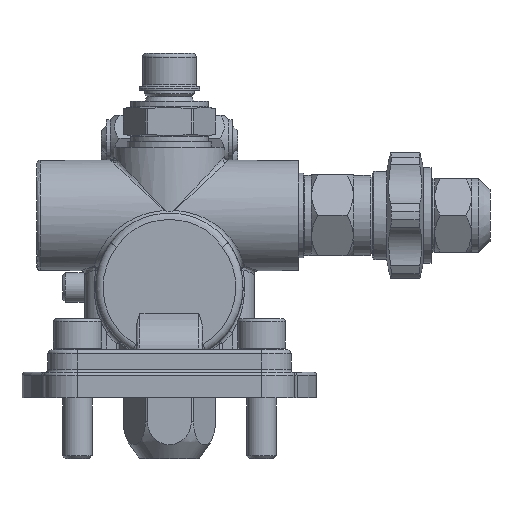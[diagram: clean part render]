
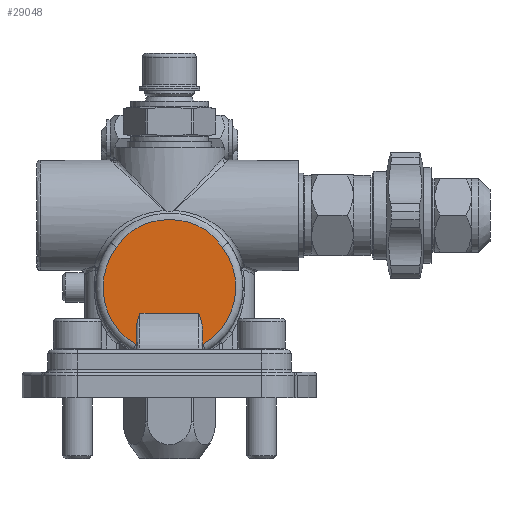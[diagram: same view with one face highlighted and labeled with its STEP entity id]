
A CAD part, left-side view. The second image highlights one B-rep face of the part: STEP entity #29048.
In plain terms, the highlighted planar face has unit normal (-1, 0, 0).
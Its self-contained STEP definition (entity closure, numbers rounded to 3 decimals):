
#23959=CARTESIAN_POINT('',(-25.5,-14.312,39.917));
#23960=VERTEX_POINT('',#23959);
#23968=CARTESIAN_POINT('',(-25.5,-9.,13.412));
#23969=VERTEX_POINT('',#23968);
#23970=CARTESIAN_POINT('',(-25.5,0.,29.));
#23971=DIRECTION('',(1.0,0.0,0.0));
#23972=DIRECTION('',(0.0,0.0,1.0));
#23973=AXIS2_PLACEMENT_3D('',#23970,#23971,#23972);
#23974=CIRCLE('',#23973,18.0);
#23975=EDGE_CURVE('',#23960,#23969,#23974,.T.);
#24054=CARTESIAN_POINT('',(-25.5,14.312,39.917));
#24055=VERTEX_POINT('',#24054);
#24063=CARTESIAN_POINT('',(-25.5,14.312,39.917));
#24064=CARTESIAN_POINT('',(-25.5,13.827,40.552));
#24065=CARTESIAN_POINT('',(-25.5,12.849,41.819));
#24066=CARTESIAN_POINT('',(-25.5,10.602,44.118));
#24067=CARTESIAN_POINT('',(-25.5,7.143,46.227));
#24068=CARTESIAN_POINT('',(-25.5,0.841,47.796));
#24069=CARTESIAN_POINT('',(-25.5,-5.727,47.051));
#24070=CARTESIAN_POINT('',(-25.5,-10.598,44.13));
#24071=CARTESIAN_POINT('',(-25.5,-12.839,41.827));
#24072=CARTESIAN_POINT('',(-25.5,-13.827,40.552));
#24073=CARTESIAN_POINT('',(-25.5,-14.312,39.917));
#24074=B_SPLINE_CURVE_WITH_KNOTS('',3,(#24063,#24064,#24065,#24066,#24067,#24068,#24069,#24070,#24071,#24072,#24073),.UNSPECIFIED.,.F.,.U.,(4,1,1,1,1,1,1,1,4),(0.,0.24,0.48,0.959,1.439,2.398,2.878,3.117,3.357),.UNSPECIFIED.);
#24075=EDGE_CURVE('',#24055,#23960,#24074,.T.);
#24110=CARTESIAN_POINT('',(-25.5,9.,13.412));
#24111=VERTEX_POINT('',#24110);
#24119=CARTESIAN_POINT('',(-25.5,0.,29.));
#24120=DIRECTION('',(1.0,0.0,0.0));
#24121=DIRECTION('',(0.0,0.0,1.0));
#24122=AXIS2_PLACEMENT_3D('',#24119,#24120,#24121);
#24123=CIRCLE('',#24122,18.0);
#24124=EDGE_CURVE('',#24111,#24055,#24123,.T.);
#26960=CARTESIAN_POINT('',(-25.5,-9.,17.417));
#26961=VERTEX_POINT('',#26960);
#26962=CARTESIAN_POINT('',(-25.5,-9.,17.417));
#26963=DIRECTION('',(0.0,0.0,-1.0));
#26964=VECTOR('',#26963,4.006);
#26965=LINE('',#26962,#26964);
#26966=EDGE_CURVE('',#26961,#23969,#26965,.T.);
#28075=CARTESIAN_POINT('',(-25.5,9.,17.417));
#28076=VERTEX_POINT('',#28075);
#28084=CARTESIAN_POINT('',(-25.5,9.,13.412));
#28085=DIRECTION('',(0.0,0.0,1.0));
#28086=VECTOR('',#28085,4.006);
#28087=LINE('',#28084,#28086);
#28088=EDGE_CURVE('',#24111,#28076,#28087,.T.);
#28489=CARTESIAN_POINT('',(-25.5,-8.,22.0));
#28490=VERTEX_POINT('',#28489);
#28491=CARTESIAN_POINT('',(-25.5,-8.,22.0));
#28492=CARTESIAN_POINT('',(-25.5,-8.447,20.588));
#28493=CARTESIAN_POINT('',(-25.5,-9.,18.899));
#28494=CARTESIAN_POINT('',(-25.5,-9.,17.417));
#28495=B_SPLINE_CURVE_WITH_KNOTS('',3,(#28491,#28492,#28493,#28494),.UNSPECIFIED.,.F.,.U.,(4,4),(0.0,0.444),.UNSPECIFIED.);
#28496=EDGE_CURVE('',#26961,#28490,#28495,.F.);
#28551=CARTESIAN_POINT('',(-25.5,8.,22.0));
#28552=VERTEX_POINT('',#28551);
#28553=CARTESIAN_POINT('',(-25.5,9.,17.417));
#28554=CARTESIAN_POINT('',(-25.5,9.,18.899));
#28555=CARTESIAN_POINT('',(-25.5,8.447,20.588));
#28556=CARTESIAN_POINT('',(-25.5,8.,22.0));
#28557=B_SPLINE_CURVE_WITH_KNOTS('',3,(#28553,#28554,#28555,#28556),.UNSPECIFIED.,.F.,.U.,(4,4),(0.913,1.357),.UNSPECIFIED.);
#28558=EDGE_CURVE('',#28552,#28076,#28557,.F.);
#28957=CARTESIAN_POINT('',(-25.5,-8.,22.0));
#28958=DIRECTION('',(0.0,1.0,0.0));
#28959=VECTOR('',#28958,16.);
#28960=LINE('',#28957,#28959);
#28961=EDGE_CURVE('',#28490,#28552,#28960,.T.);
#29033=CARTESIAN_POINT('',(-25.5,0.,29.));
#29034=DIRECTION('',(-1.0,0.0,0.0));
#29035=DIRECTION('',(0.0,0.0,1.0));
#29036=AXIS2_PLACEMENT_3D('',#29033,#29034,#29035);
#29037=PLANE('',#29036);
#29038=ORIENTED_EDGE('',*,*,#24124,.F.);
#29039=ORIENTED_EDGE('',*,*,#28088,.T.);
#29040=ORIENTED_EDGE('',*,*,#28558,.F.);
#29041=ORIENTED_EDGE('',*,*,#28961,.F.);
#29042=ORIENTED_EDGE('',*,*,#28496,.F.);
#29043=ORIENTED_EDGE('',*,*,#26966,.T.);
#29044=ORIENTED_EDGE('',*,*,#23975,.F.);
#29045=ORIENTED_EDGE('',*,*,#24075,.F.);
#29046=EDGE_LOOP('',(#29038,#29039,#29040,#29041,#29042,#29043,#29044,#29045));
#29047=FACE_OUTER_BOUND('',#29046,.T.);
#29048=ADVANCED_FACE('',(#29047),#29037,.T.);
